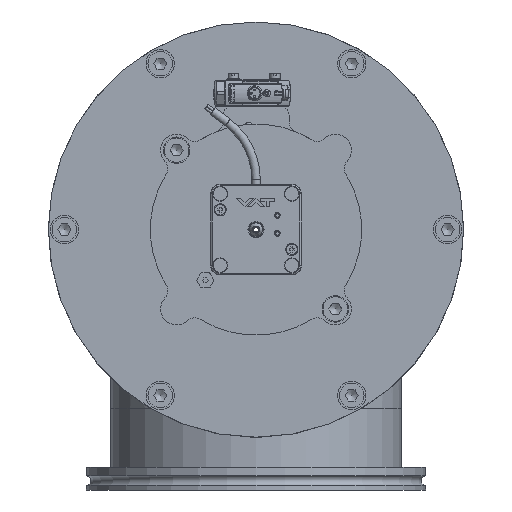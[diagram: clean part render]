
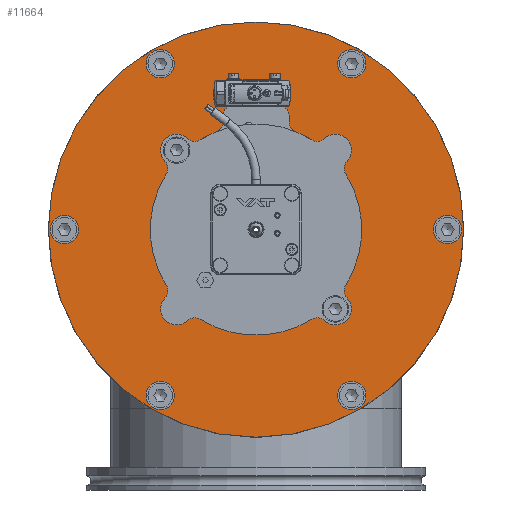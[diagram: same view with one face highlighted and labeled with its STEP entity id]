
A CAD part, left-side view. The second image highlights one B-rep face of the part: STEP entity #11664.
In plain terms, the highlighted planar face has unit normal (-1, 0, 0).
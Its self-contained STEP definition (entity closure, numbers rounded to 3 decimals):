
#11664=ADVANCED_FACE('BCT_REF_56940',(#14387,#14388,#14389,#14390,#14391,
#14392,#14393,#14394,#14395,#14396,#14397,#14398),#12472,.F.);
#12472=PLANE('',#33876);
#13591=CIRCLE('',#33862,110.);
#13593=CIRCLE('',#33865,3.4);
#13594=CIRCLE('',#33866,3.4);
#13595=CIRCLE('',#33867,3.4);
#13596=CIRCLE('',#33868,3.4);
#13597=CIRCLE('',#33869,7.5);
#13598=CIRCLE('',#33870,7.5);
#13599=CIRCLE('',#33871,7.5);
#13600=CIRCLE('',#33872,7.5);
#13601=CIRCLE('',#33873,7.5);
#13602=CIRCLE('',#33874,7.5);
#13603=CIRCLE('',#33875,55.145);
#14387=FACE_BOUND('',#16249,.T.);
#14388=FACE_BOUND('',#16250,.T.);
#14389=FACE_BOUND('',#16251,.T.);
#14390=FACE_BOUND('',#16252,.T.);
#14391=FACE_BOUND('',#16253,.T.);
#14392=FACE_BOUND('',#16254,.T.);
#14393=FACE_BOUND('',#16255,.T.);
#14394=FACE_BOUND('',#16256,.T.);
#14395=FACE_BOUND('',#16257,.T.);
#14396=FACE_BOUND('',#16258,.T.);
#14397=FACE_BOUND('',#16259,.T.);
#14398=FACE_BOUND('',#16260,.T.);
#16249=EDGE_LOOP('',(#22519));
#16250=EDGE_LOOP('',(#22520));
#16251=EDGE_LOOP('',(#22521));
#16252=EDGE_LOOP('',(#22522));
#16253=EDGE_LOOP('',(#22523));
#16254=EDGE_LOOP('',(#22524));
#16255=EDGE_LOOP('',(#22525));
#16256=EDGE_LOOP('',(#22526));
#16257=EDGE_LOOP('',(#22527));
#16258=EDGE_LOOP('',(#22528));
#16259=EDGE_LOOP('',(#22529));
#16260=EDGE_LOOP('',(#22530));
#22519=ORIENTED_EDGE('',*,*,#27984,.T.);
#22520=ORIENTED_EDGE('',*,*,#27985,.T.);
#22521=ORIENTED_EDGE('',*,*,#27986,.T.);
#22522=ORIENTED_EDGE('',*,*,#27987,.T.);
#22523=ORIENTED_EDGE('',*,*,#27988,.T.);
#22524=ORIENTED_EDGE('',*,*,#27989,.T.);
#22525=ORIENTED_EDGE('',*,*,#27990,.T.);
#22526=ORIENTED_EDGE('',*,*,#27991,.T.);
#22527=ORIENTED_EDGE('',*,*,#27992,.T.);
#22528=ORIENTED_EDGE('',*,*,#27993,.T.);
#22529=ORIENTED_EDGE('',*,*,#27994,.T.);
#22530=ORIENTED_EDGE('',*,*,#27980,.T.);
#24829=VERTEX_POINT('',#51097);
#24832=VERTEX_POINT('',#51105);
#24833=VERTEX_POINT('',#51107);
#24834=VERTEX_POINT('',#51109);
#24835=VERTEX_POINT('',#51111);
#24836=VERTEX_POINT('',#51113);
#24837=VERTEX_POINT('',#51115);
#24838=VERTEX_POINT('',#51117);
#24839=VERTEX_POINT('',#51119);
#24840=VERTEX_POINT('',#51121);
#24841=VERTEX_POINT('',#51123);
#24842=VERTEX_POINT('',#51125);
#27980=EDGE_CURVE('',#24829,#24829,#13591,.T.);
#27984=EDGE_CURVE('',#24832,#24832,#13593,.T.);
#27985=EDGE_CURVE('',#24833,#24833,#13594,.T.);
#27986=EDGE_CURVE('',#24834,#24834,#13595,.T.);
#27987=EDGE_CURVE('',#24835,#24835,#13596,.T.);
#27988=EDGE_CURVE('BCT_REF_65930',#24836,#24836,#13597,.T.);
#27989=EDGE_CURVE('',#24837,#24837,#13598,.T.);
#27990=EDGE_CURVE('',#24838,#24838,#13599,.T.);
#27991=EDGE_CURVE('',#24839,#24839,#13600,.T.);
#27992=EDGE_CURVE('',#24840,#24840,#13601,.T.);
#27993=EDGE_CURVE('',#24841,#24841,#13602,.T.);
#27994=EDGE_CURVE('',#24842,#24842,#13603,.T.);
#33862=AXIS2_PLACEMENT_3D('',#51096,#40543,#40544);
#33865=AXIS2_PLACEMENT_3D('',#51104,#40551,#40552);
#33866=AXIS2_PLACEMENT_3D('',#51106,#40553,#40554);
#33867=AXIS2_PLACEMENT_3D('',#51108,#40555,#40556);
#33868=AXIS2_PLACEMENT_3D('',#51110,#40557,#40558);
#33869=AXIS2_PLACEMENT_3D('',#51112,#40559,#40560);
#33870=AXIS2_PLACEMENT_3D('',#51114,#40561,#40562);
#33871=AXIS2_PLACEMENT_3D('',#51116,#40563,#40564);
#33872=AXIS2_PLACEMENT_3D('',#51118,#40565,#40566);
#33873=AXIS2_PLACEMENT_3D('',#51120,#40567,#40568);
#33874=AXIS2_PLACEMENT_3D('',#51122,#40569,#40570);
#33875=AXIS2_PLACEMENT_3D('',#51124,#40571,#40572);
#33876=AXIS2_PLACEMENT_3D('',#51126,#40573,#40574);
#40543=DIRECTION('',(-1.,0.,0.));
#40544=DIRECTION('',(0.,0.,1.));
#40551=DIRECTION('',(1.,0.,0.));
#40552=DIRECTION('',(0.,-1.,0.));
#40553=DIRECTION('',(1.,0.,0.));
#40554=DIRECTION('',(0.,0.,1.));
#40555=DIRECTION('',(1.,0.,0.));
#40556=DIRECTION('',(0.,1.,0.));
#40557=DIRECTION('',(1.,0.,0.));
#40558=DIRECTION('',(0.,0.,-1.));
#40559=DIRECTION('',(1.,0.,0.));
#40560=DIRECTION('',(0.,-0.866,-0.5));
#40561=DIRECTION('',(1.,0.,0.));
#40562=DIRECTION('',(0.,-0.866,0.5));
#40563=DIRECTION('',(1.,0.,0.));
#40564=DIRECTION('',(0.,0.,1.));
#40565=DIRECTION('',(1.,0.,0.));
#40566=DIRECTION('',(0.,0.866,0.5));
#40567=DIRECTION('',(1.,0.,0.));
#40568=DIRECTION('',(0.,0.866,-0.5));
#40569=DIRECTION('',(1.,0.,0.));
#40570=DIRECTION('',(0.,0.,-1.));
#40571=DIRECTION('',(1.,0.,0.));
#40572=DIRECTION('',(0.,0.,-1.));
#40573=DIRECTION('',(1.,0.,0.));
#40574=DIRECTION('',(0.,0.,-1.));
#51096=CARTESIAN_POINT('',(0.,0.,0.));
#51097=CARTESIAN_POINT('',(0.,0.,110.));
#51104=CARTESIAN_POINT('',(0.,-42.073,-42.073));
#51105=CARTESIAN_POINT('',(0.,-45.473,-42.073));
#51106=CARTESIAN_POINT('',(0.,-42.073,42.073));
#51107=CARTESIAN_POINT('',(0.,-42.073,45.473));
#51108=CARTESIAN_POINT('',(0.,42.073,42.073));
#51109=CARTESIAN_POINT('',(0.,45.473,42.073));
#51110=CARTESIAN_POINT('',(0.,42.073,-42.073));
#51111=CARTESIAN_POINT('',(0.,42.073,-45.473));
#51112=CARTESIAN_POINT('',(0.,50.75,-87.902));
#51113=CARTESIAN_POINT('',(0.,44.255,-91.652));
#51114=CARTESIAN_POINT('',(0.,-50.75,-87.902));
#51115=CARTESIAN_POINT('',(0.,-57.245,-84.152));
#51116=CARTESIAN_POINT('',(0.,-101.5,0.));
#51117=CARTESIAN_POINT('',(0.,-101.5,7.5));
#51118=CARTESIAN_POINT('',(0.,-50.75,87.902));
#51119=CARTESIAN_POINT('',(0.,-44.255,91.652));
#51120=CARTESIAN_POINT('',(0.,50.75,87.902));
#51121=CARTESIAN_POINT('',(0.,57.245,84.152));
#51122=CARTESIAN_POINT('',(0.,101.5,0.));
#51123=CARTESIAN_POINT('',(0.,101.5,-7.5));
#51124=CARTESIAN_POINT('',(0.,0.,0.));
#51125=CARTESIAN_POINT('',(0.,0.,-55.145));
#51126=CARTESIAN_POINT('',(0.,110.,0.));
